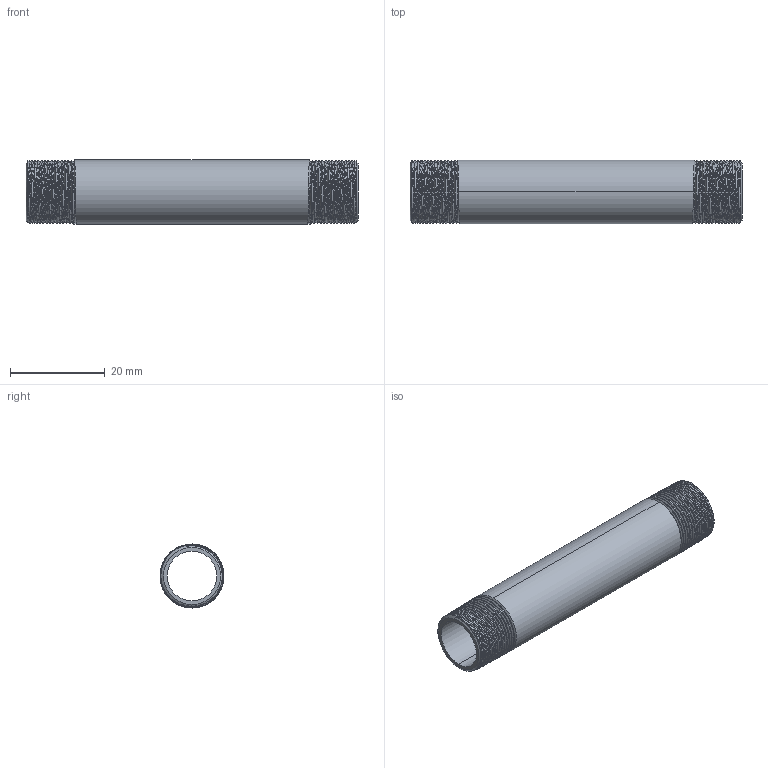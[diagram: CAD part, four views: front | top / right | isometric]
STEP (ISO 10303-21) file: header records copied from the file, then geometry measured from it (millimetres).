
FILE_DESCRIPTION (( 'STEP AP203' ), '1' );
FILE_NAME ('3D_R210_1-4x70_17185693.STEP', '2024-08-16T11:07:59', ( '' ), ( '' ), 'SwSTEP 2.0', 'SolidWorks 2024', '' );
FILE_SCHEMA (( 'CONFIG_CONTROL_DESIGN' ));
Length unit declared in the file: millimetre
Products named in the file (1): 3D_R210_1-4x70_17185693
Bounding box: 70 x 13.48 x 13.5 mm (x, y, z)
Volume: 3766.2 mm3; surface area: 5719 mm2
Topology: 1 solids, 1 shells, 76 faces, 216 edges, 142 vertices
Faces by surface type: cone 62, bspline 6, cylinder 4, plane 4
Entity records: 10859 total; most frequent: CARTESIAN_POINT 9099, ORIENTED_EDGE 432, DIRECTION 230, EDGE_CURVE 216, VERTEX_POINT 142, B_SPLINE_CURVE_WITH_KNOTS 130, AXIS2_PLACEMENT_3D 81, EDGE_LOOP 78
